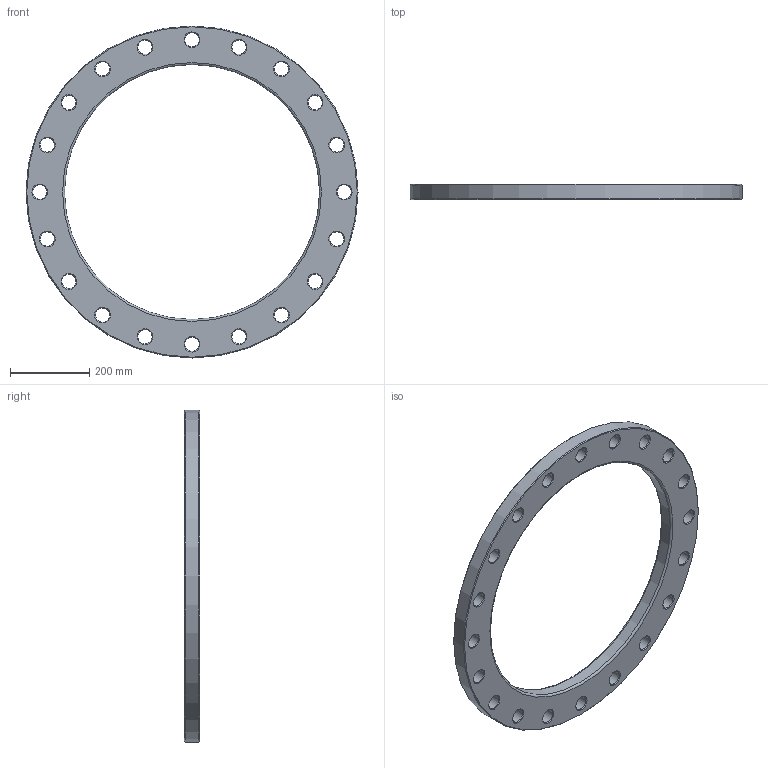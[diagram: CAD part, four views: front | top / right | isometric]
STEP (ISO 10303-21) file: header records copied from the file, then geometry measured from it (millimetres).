
FILE_DESCRIPTION(/* description */ ('Unknown'),/* implementation_level */ '2;1');
FILE_NAME(/* name */ 'FZ630C',/* time_stamp */ '2021-03-15T12:26:02+01:00',/* author */ ('Unknown'),/* organization */ ('Unknown'),/* preprocessor_version */ 'ST-DEVELOPER v16.7',/* originating_system */ 'Solid Edge',/* authorisation */ 'Unknown');
FILE_SCHEMA (('AUTOMOTIVE_DESIGN {1 0 10303 214 3 1 1}'));
Length unit declared in the file: millimetre
Products named in the file (1): FZ630C
Bounding box: 840 x 39 x 840 mm (x, y, z)
Volume: 8034152.1 mm3; surface area: 664349 mm2
Topology: 1 solids, 1 shells, 68 faces, 214 edges, 148 vertices
Faces by surface type: cone 42, cylinder 22, plane 2, torus 2
Full cylindrical faces by diameter (mm): 36 x20, 645 x1, 840 x1
Entity records: 1678 total; most frequent: DIRECTION 314, CARTESIAN_POINT 245, ORIENTED_EDGE 176, EDGE_LOOP 176, FACE_BOUND 176, AXIS2_PLACEMENT_3D 157, EDGE_CURVE 88, VERTEX_POINT 88
